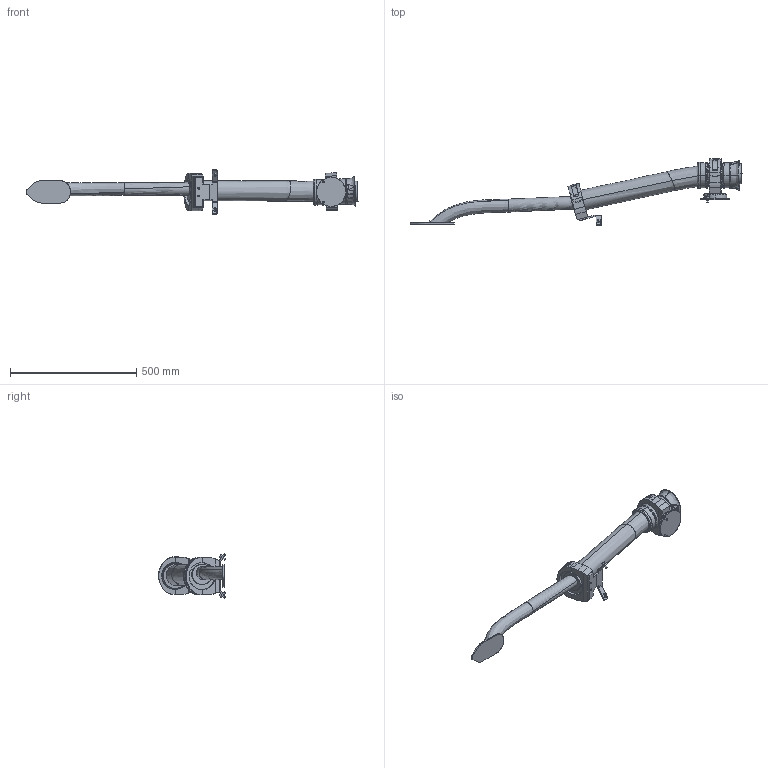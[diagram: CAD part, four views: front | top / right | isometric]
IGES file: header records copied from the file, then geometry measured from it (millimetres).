
Start section: SolidWorks IGES file using analytic representation for surfaces
Global section: file name: C:\Data\SAP_DOC\LW\IRB 6720\IRB6720-LID-MH_140kg-320_OC_01_SW_J\IRB6720-LID-MH_140kg-320_OC_01_IGES_J\IRB6720-LID_140kg-320_OC_00_LINK04_CABLE.igs; native system: SolidWorks 2024; preprocessor: SolidWorks 2024; author: SEJOVAS3; date: 260610.140112; units: millimetre
Bounding box: 1313.1 x 265.02 x 174.65 mm (x, y, z)
Surface area: 466723.7 mm2 (no closed solid volume)
Topology: 0 solids, 0 shells, 432 faces, 8152 edges, 8152 vertices
Faces by surface type: bspline 270, revolution 162
